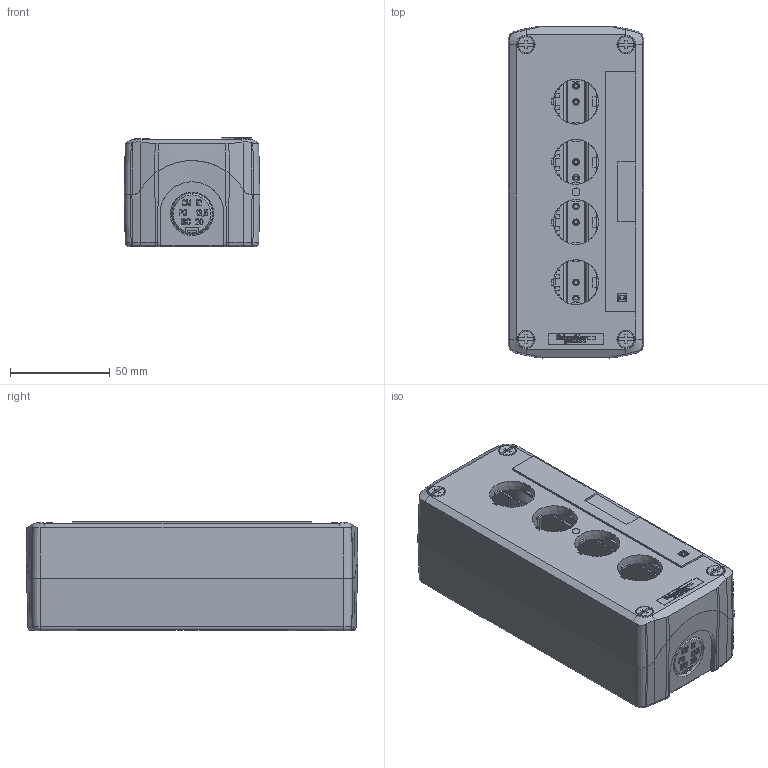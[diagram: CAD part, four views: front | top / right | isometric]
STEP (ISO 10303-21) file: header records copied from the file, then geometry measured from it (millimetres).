
FILE_DESCRIPTION((''),'2;1');
FILE_NAME('PRT0005','2014-07-24T',('EBBX743'),('Schneider-Electric'),'PRO/ENGINEER BY PARAMETRIC TECHNOLOGY CORPORATION, 2012420','PRO/ENGINEER BY PARAMETRIC TECHNOLOGY CORPORATION, 2012420','');
FILE_SCHEMA(('CONFIG_CONTROL_DESIGN'));
Products named in the file (1): PRT0005
Bounding box: 68 x 166.01 x 54.8 mm (x, y, z)
Surface area: 155365 mm2 (no closed solid volume)
Topology: 0 solids, 16 shells, 6975 faces, 19416 edges, 12775 vertices
Faces by surface type: plane 5587, cone 535, bspline 281, extrusion 274, cylinder 266, torus 24, sphere 8
Entity records: 237812 total; most frequent: CARTESIAN_POINT 62489, ORIENTED_EDGE 38816, DIRECTION 31874, EDGE_CURVE 19408, VECTOR 16048, LINE 15774, VERTEX_POINT 12775, AXIS2_PLACEMENT_3D 7913
